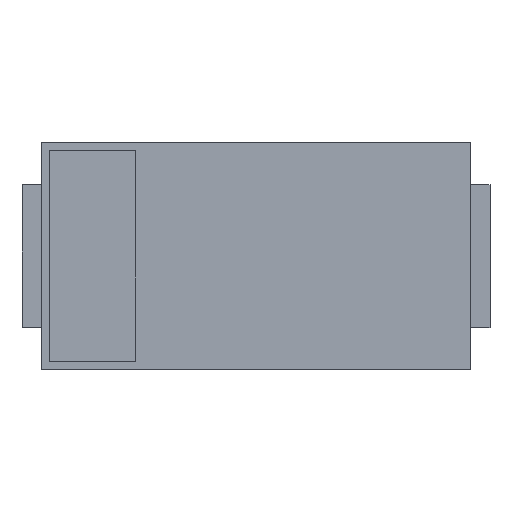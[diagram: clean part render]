
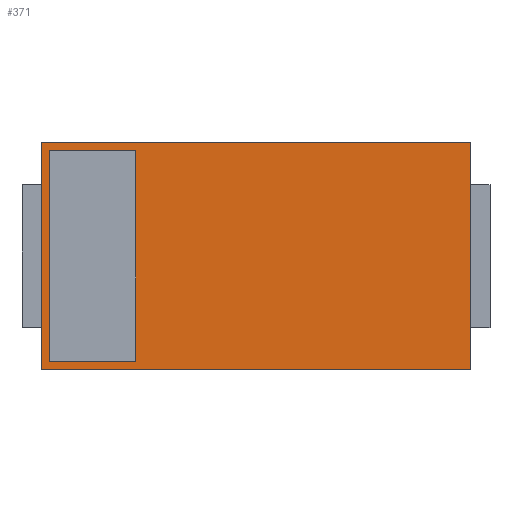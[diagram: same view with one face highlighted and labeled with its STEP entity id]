
A CAD part, top view. The second image highlights one B-rep face of the part: STEP entity #371.
In plain terms, the highlighted planar face has unit normal (0, 0, 1).
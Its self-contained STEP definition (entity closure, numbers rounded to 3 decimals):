
#371=ADVANCED_FACE('',(#377),#372,.T.);
#372=PLANE('',#373);
#373=AXIS2_PLACEMENT_3D('',#374,#375,#376);
#374=CARTESIAN_POINT('',(-1.797,-0.952,1.092));
#375=DIRECTION('',(0.0,0.0,1.0));
#376=DIRECTION('',(0.,1.,0.));
#377=FACE_OUTER_BOUND('',#378,.T.);
#378=EDGE_LOOP('',(#379,#389,#399,#409));
#382=CARTESIAN_POINT('',(1.797,-0.952,1.092));
#381=VERTEX_POINT('',#382);
#384=CARTESIAN_POINT('',(-1.797,-0.952,1.092));
#383=VERTEX_POINT('',#384);
#380=EDGE_CURVE('',#381,#383,#385,.T.);
#385=LINE('',#382,#387);
#387=VECTOR('',#388,3.594);
#388=DIRECTION('',(-1.0,0.0,0.0));
#379=ORIENTED_EDGE('',*,*,#380,.F.);
#392=CARTESIAN_POINT('',(1.797,0.952,1.092));
#391=VERTEX_POINT('',#392);
#390=EDGE_CURVE('',#391,#381,#395,.T.);
#395=LINE('',#392,#397);
#397=VECTOR('',#398,1.905);
#398=DIRECTION('',(0.0,-1.0,0.0));
#389=ORIENTED_EDGE('',*,*,#390,.F.);
#402=CARTESIAN_POINT('',(-1.797,0.952,1.092));
#401=VERTEX_POINT('',#402);
#400=EDGE_CURVE('',#401,#391,#405,.T.);
#405=LINE('',#402,#407);
#407=VECTOR('',#408,3.594);
#408=DIRECTION('',(1.0,0.0,0.0));
#399=ORIENTED_EDGE('',*,*,#400,.F.);
#410=EDGE_CURVE('',#383,#401,#415,.T.);
#415=LINE('',#384,#417);
#417=VECTOR('',#418,1.905);
#418=DIRECTION('',(0.0,1.0,0.0));
#409=ORIENTED_EDGE('',*,*,#410,.F.);
